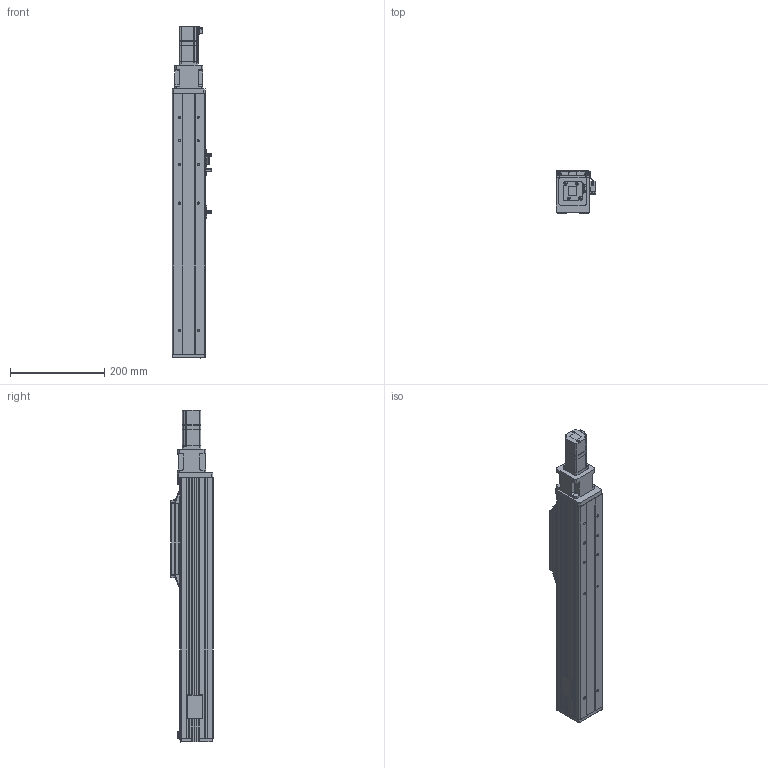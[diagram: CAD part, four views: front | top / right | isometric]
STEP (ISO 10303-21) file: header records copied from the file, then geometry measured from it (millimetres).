
FILE_DESCRIPTION(('Creo Elements/Direct Modeling STEP Export'),'2;1');
FILE_NAME('APCS070SON-ST300.stp','2022-02-18T10:40:46',(''),(''),'Creo Elements/Direct Modeling STEP processor for AP203 (Solid Model)','Creo Elements/Direct Modeling 19.0G 27-Nov-2017 (C) Parametric Technology GmbH','');
FILE_SCHEMA(('CONFIG_CONTROL_DESIGN'));
Length unit declared in the file: millimetre
Products named in the file (15): 070_END_COVER_ANY; BK02; EE_SX672.2; APCS070_END_PLATE; APCS70_SLIDER_END_COVER; APCS070_Carrier; p1; p2; p3; APCS070_BASE_FRAME-382L; SDWA-26C; APCS070-SENSORDOG; sgmjv_01a_a21; APCS070SON-1520-ST300-10NN00-N-I3R; APCS070SON-ST300
Assembly tree (17 placements, depth 4):
  APCS070SON-ST300
    APCS070SON-1520-ST300-10NN00-N-I3R
      EE_SX672.2  x3
      sgmjv_01a_a21
      APCS070-SENSORDOG
      SDWA-26C
      APCS070_BASE_FRAME-382L
        p3
        p2
        p1
      APCS070_Carrier
      APCS70_SLIDER_END_COVER  x2
      APCS070_END_PLATE
      BK02
      070_END_COVER_ANY
Bounding box: 83.7 x 90 x 703.1 mm (x, y, z)
Volume: 1806780.5 mm3; surface area: 533729 mm2
Topology: 15 solids, 23 shells, 2535 faces, 6924 edges, 4489 vertices
Faces by surface type: plane 1293, cylinder 762, cone 250, torus 144, bspline 64, sphere 22
Entity records: 78157 total; most frequent: CARTESIAN_POINT 21968, ORIENTED_EDGE 11822, DIRECTION 10375, EDGE_CURVE 5911, VERTEX_POINT 3892, AXIS2_PLACEMENT_3D 3480, VECTOR 3415, LINE 3415
